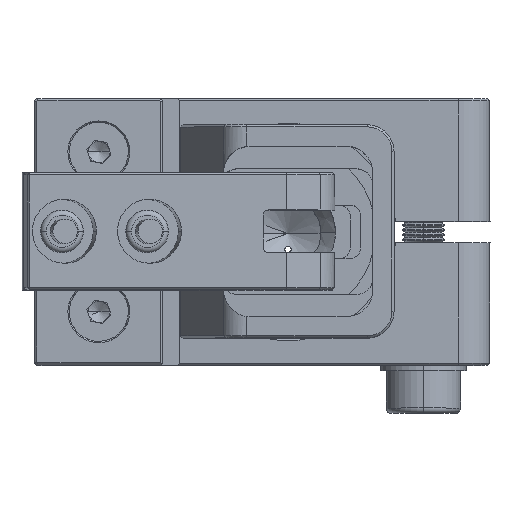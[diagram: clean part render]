
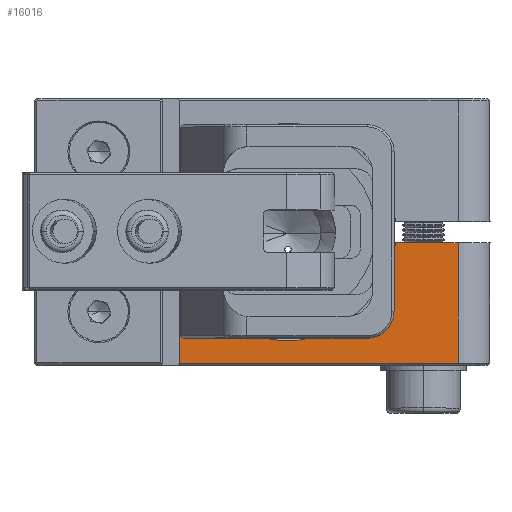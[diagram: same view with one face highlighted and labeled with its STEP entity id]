
A CAD part, top view. The second image highlights one B-rep face of the part: STEP entity #16016.
In plain terms, the highlighted planar face has unit normal (0, 0, 1).
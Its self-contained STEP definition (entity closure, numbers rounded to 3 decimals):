
#554 = CARTESIAN_POINT ( 'NONE',  ( 16., -6.65, -31.813 ) ) ;
#765 = DIRECTION ( 'NONE',  ( 0., 1., 0. ) ) ;
#2176 = AXIS2_PLACEMENT_3D ( 'NONE', #23147, #23290, #23384 ) ;
#2608 = VECTOR ( 'NONE', #14282, 1000. ) ;
#3358 = CARTESIAN_POINT ( 'NONE',  ( 16., -1., -31.813 ) ) ;
#3409 = PLANE ( 'NONE',  #11736 ) ;
#3459 = DIRECTION ( 'NONE',  ( 0., 0., 1. ) ) ;
#3544 = DIRECTION ( 'NONE',  ( -1., 0., 0. ) ) ;
#4572 = DIRECTION ( 'NONE',  ( 0., -1., 0. ) ) ;
#5782 = EDGE_CURVE ( 'NONE', #7705, #6534, #19825, .T. ) ;
#6407 = LINE ( 'NONE', #25729, #25842 ) ;
#6534 = VERTEX_POINT ( 'NONE', #24996 ) ;
#6894 = ORIENTED_EDGE ( 'NONE', *, *, #5782, .T. ) ;
#7346 = ORIENTED_EDGE ( 'NONE', *, *, #17734, .T. ) ;
#7705 = VERTEX_POINT ( 'NONE', #11546 ) ;
#8302 = ORIENTED_EDGE ( 'NONE', *, *, #25463, .T. ) ;
#9846 = CIRCLE ( 'NONE', #2176, 10.2 ) ;
#10196 = ORIENTED_EDGE ( 'NONE', *, *, #15611, .T. ) ;
#10276 = VERTEX_POINT ( 'NONE', #20246 ) ;
#10655 = VERTEX_POINT ( 'NONE', #26425 ) ;
#11546 = CARTESIAN_POINT ( 'NONE',  ( 16., -12.3, -31.813 ) ) ;
#11736 = AXIS2_PLACEMENT_3D ( 'NONE', #3358, #3459, #3544 ) ;
#12790 = CARTESIAN_POINT ( 'NONE',  ( 2.95, -1., -31.813 ) ) ;
#13051 = VECTOR ( 'NONE', #14939, 1000. ) ;
#13091 = CARTESIAN_POINT ( 'NONE',  ( -10.1, -1.425, -31.813 ) ) ;
#14282 = DIRECTION ( 'NONE',  ( -1., 0., 0. ) ) ;
#14939 = DIRECTION ( 'NONE',  ( -1., 0., 0. ) ) ;
#15016 = FACE_OUTER_BOUND ( 'NONE', #21188, .T. ) ;
#15198 = LINE ( 'NONE', #16439, #2608 ) ;
#15611 = EDGE_CURVE ( 'NONE', #10655, #20287, #9846, .T. ) ;
#16016 = ADVANCED_FACE ( 'NONE', ( #15016 ), #3409, .T. ) ;
#16439 = CARTESIAN_POINT ( 'NONE',  ( 2.771, -12.3, -31.813 ) ) ;
#17734 = EDGE_CURVE ( 'NONE', #20287, #10276, #6407, .T. ) ;
#18795 = EDGE_CURVE ( 'NONE', #7705, #10276, #15198, .T. ) ;
#18825 = ORIENTED_EDGE ( 'NONE', *, *, #18795, .F. ) ;
#19825 = LINE ( 'NONE', #554, #22518 ) ;
#20246 = CARTESIAN_POINT ( 'NONE',  ( -10.1, -12.3, -31.813 ) ) ;
#20287 = VERTEX_POINT ( 'NONE', #13091 ) ;
#21188 = EDGE_LOOP ( 'NONE', ( #18825, #6894, #8302, #10196, #7346 ) ) ;
#22518 = VECTOR ( 'NONE', #765, 1000. ) ;
#23147 = CARTESIAN_POINT ( 'NONE',  ( 0., 0., -31.813 ) ) ;
#23290 = DIRECTION ( 'NONE',  ( 0., 0., -1. ) ) ;
#23384 = DIRECTION ( 'NONE',  ( 1., 0., 0. ) ) ;
#24996 = CARTESIAN_POINT ( 'NONE',  ( 16., -1., -31.813 ) ) ;
#25463 = EDGE_CURVE ( 'NONE', #6534, #10655, #27372, .T. ) ;
#25729 = CARTESIAN_POINT ( 'NONE',  ( -10.1, -6.65, -31.813 ) ) ;
#25842 = VECTOR ( 'NONE', #4572, 1000. ) ;
#26425 = CARTESIAN_POINT ( 'NONE',  ( 10.151, -1., -31.813 ) ) ;
#27372 = LINE ( 'NONE', #12790, #13051 ) ;
